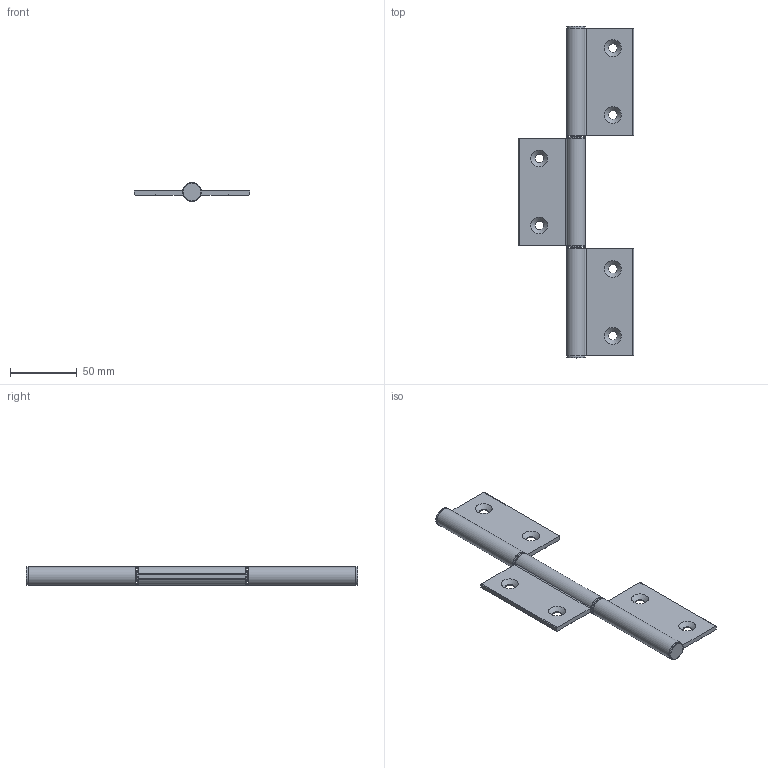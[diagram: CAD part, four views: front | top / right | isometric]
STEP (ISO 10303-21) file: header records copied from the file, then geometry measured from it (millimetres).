
FILE_DESCRIPTION( ( 'STEP AP203' ), '1' );
FILE_NAME( 'C:/Temp/Ganter_Step_05_03_2020/data/3_3/gn2295/Hinge GN 2295-86-245-I-C-EL.stp', '2020-03-12T12:08:00', ( 'License CC BY-ND 4.0' ), ( 'CADENAS' ), ' ', 'PARTsolutions', ' ' );
FILE_SCHEMA( ( 'CONFIG_CONTROL_DESIGN' ) );
Length unit declared in the file: millimetre
Products named in the file (4): Hinge GN 2295-86-245-I-C-EL; _Hinge GN 2295-86-245-I-C-EL-1; _Hinge GN 2295-86-245-I-C-EL-2; _Hinge GN 2295-86-245-I-C-EL-3
Assembly tree (3 placements, depth 2):
  Hinge GN 2295-86-245-I-C-EL
    _Hinge GN 2295-86-245-I-C-EL-1
    _Hinge GN 2295-86-245-I-C-EL-2
    _Hinge GN 2295-86-245-I-C-EL-3
Bounding box: 86 x 248 x 13.97 mm (x, y, z)
Volume: 66909.2 mm3; surface area: 38385 mm2
Topology: 3 solids, 3 shells, 87 faces, 224 edges, 147 vertices
Faces by surface type: plane 46, cylinder 33, cone 6, torus 2
Full cylindrical faces by diameter (mm): 6 x2, 6.6 x6, 8 x4, 13.9 x6
Entity records: 2662 total; most frequent: DIRECTION 477, CARTESIAN_POINT 422, ORIENTED_EDGE 382, AXIS2_PLACEMENT_3D 195, EDGE_CURVE 191, VERTEX_POINT 140, EDGE_LOOP 133, FACE_OUTER_BOUND 107
